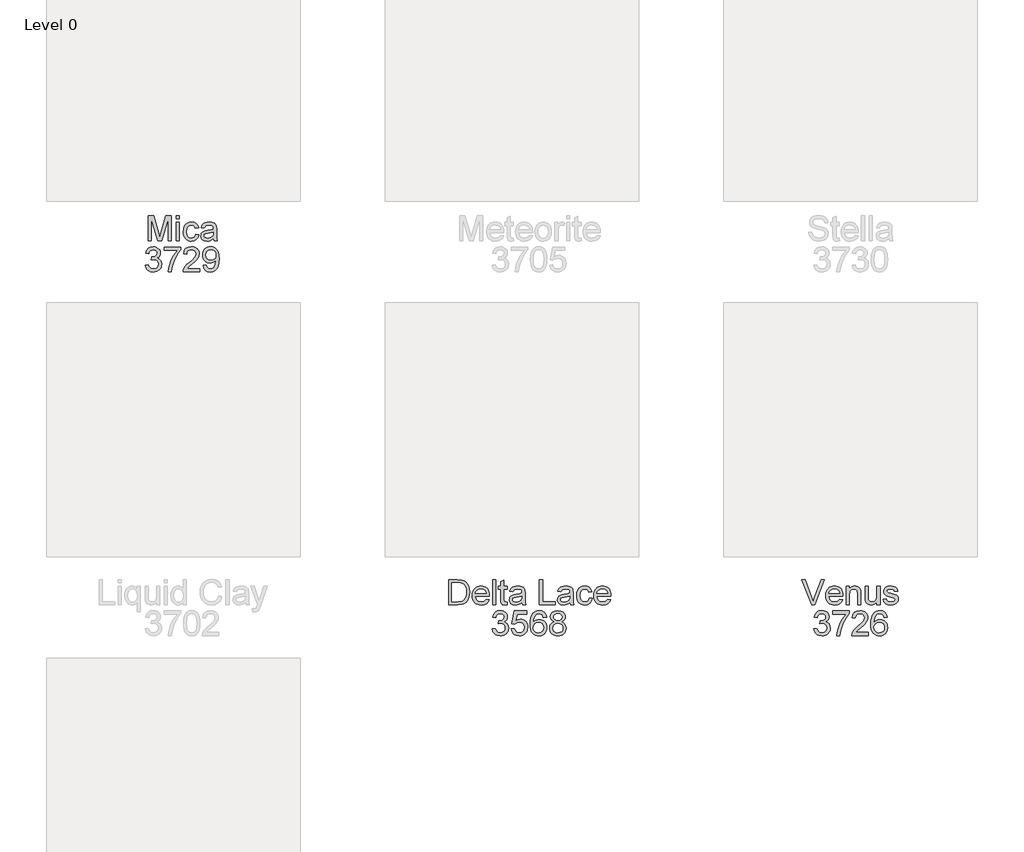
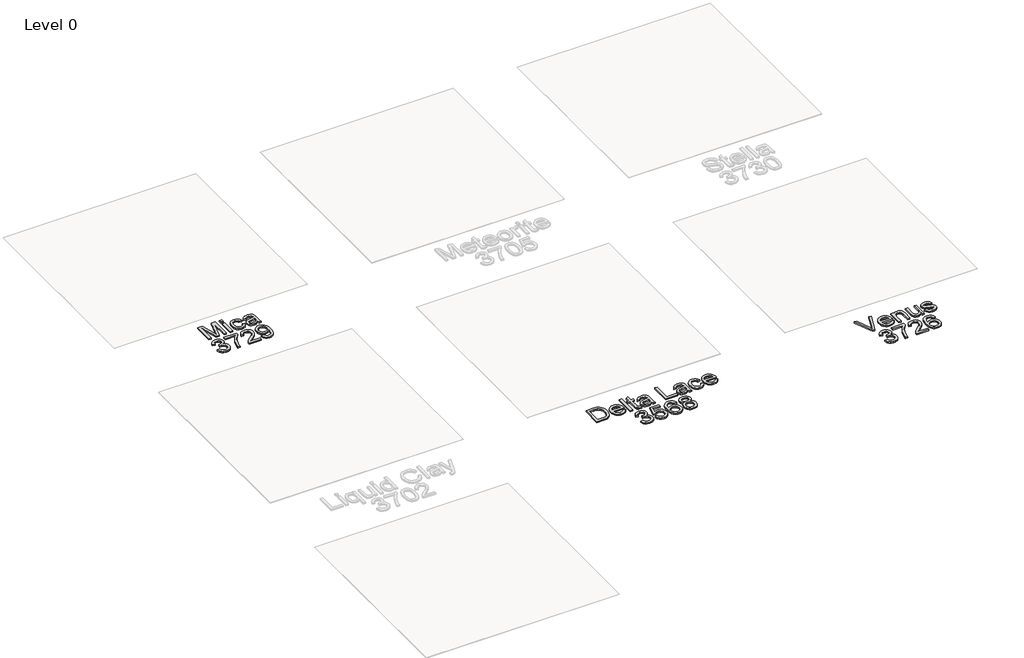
# One storey, part 7 of 14: 3 proxies.
"""IFC4 building model written with IfcOpenShell, lengths in millimetres."""

from ifc_helpers import new_model, si_unit, origin, origin_with_axes, place, context, project, spatial, polyline, outline, extrude, element, save

model = new_model("IFC4")

# Units and contexts
model_context = context("Model", 3, world=origin())
ifc_project = project(units=[si_unit("LENGTHUNIT", "METRE", prefix="MILLI")], contexts=[model_context])

# Site, building, storey
site = spatial("IfcSite", under=ifc_project)
building = spatial("IfcBuilding", under=site)
storey = spatial("IfcBuildingStorey", under=building, Name="Level 0", Elevation=0.0)

# Proxies
placement = place(None, origin())
element("IfcBuildingElementProxy", 1, Name="300mm Arial", ObjectType="300mm Arial", at=placement, inside=storey, context=model_context, shape_type="SweptSolid", body=[
    extrude(outline(polyline([(-251.5752648, -15037.1730179), (-251.5752648, -14741.7884025), (-188.041611, -14741.7884025), (-127.6089187, -14949.9855179), (-115.4214187, -14993.4710948), (-102.2243033, -14946.3797486), (-42.8012264, -14741.7884025), (20.7324275, -14741.7884025), (20.7324275, -15037.1730179), (-16.1906494, -15037.1730179), (-16.1906494, -14778.7114794), (-90.3973802, -15037.1730179), (-140.4454571, -15037.1730179), (-214.6521879, -14778.7114794), (-214.6521879, -15037.1730179), (-251.5752648, -15037.1730179)])), origin_with_axes(), (0.0, 0.0, 1.0), 20.0),
    extrude(outline(polyline([(80.7324275, -14778.7114794), (80.7324275, -14741.7884025), (117.6555044, -14741.7884025), (117.6555044, -14778.7114794), (80.7324275, -14778.7114794)])), origin_with_axes(), (0.0, 0.0, 1.0), 20.0),
    extrude(outline(polyline([(80.7324275, -15037.1730179), (80.7324275, -14820.2499409), (117.6555044, -14820.2499409), (117.6555044, -15037.1730179), (80.7324275, -15037.1730179)])), origin_with_axes(), (0.0, 0.0, 1.0), 20.0),
    extrude(outline(polyline([(311.5016583, -14958.7114794), (348.4247352, -14963.326864), (338.130264, -14996.1664073), (318.7853121, -15020.983114), (292.2107929, -15036.5870804), (260.2276198, -15041.7884025), (239.5192364, -15039.9742498), (220.9517785, -15034.5317919), (204.525246, -15025.4610287), (190.239639, -15012.7619602), (178.6763878, -14996.6734686), (170.4169227, -14977.4344361), (165.4612436, -14955.0448628), (163.8093506, -14929.5047486), (166.630865, -14896.6471765), (175.0954083, -14868.170614), (189.3381967, -14845.1748207), (209.4944467, -14828.7595563), (233.6080285, -14818.9158063), (259.7228121, -14815.6345563), (290.9217304, -14820.1417679), (315.864639, -14833.6634025), (333.7582688, -14855.4783063), (343.8093506, -14884.8653255), (306.8862736, -14889.4807102), (300.1885573, -14873.3719361), (289.7588698, -14861.8244602), (276.1741342, -14854.87434), (260.0112736, -14852.5576332), (236.1500958, -14857.1189313), (217.2107929, -14870.8028255), (204.8520188, -14894.3484986), (200.7324275, -14928.4951332), (204.7618746, -14963.1015034), (216.850216, -14986.7283063), (235.4469708, -15000.3310707), (259.0016583, -15004.8653255), (278.1212496, -15002.0347967), (293.7973313, -14993.5432102), (305.2005765, -14979.1742198), (311.5016583, -14958.7114794)])), origin_with_axes(), (0.0, 0.0, 1.0), 20.0),
    extrude(outline(polyline([(519.193966, -15009.4807102), (501.55274, -15024.6069121), (483.3886775, -15034.5047486), (464.287115, -15039.967489), (443.833389, -15041.7884025), (412.9770188, -15037.4073929), (390.2156006, -15024.264364), (376.1801438, -15004.3064313), (371.5016583, -14979.4807102), (373.2684852, -14964.1742198), (378.568966, -14950.2739794), (386.7450477, -14938.3749409), (397.1386775, -14929.0720563), (422.9920429, -14916.9566717), (454.9391583, -14911.4037871), (492.6915621, -14905.5624409), (518.9776198, -14898.7114794), (519.193966, -14890.4903255), (516.6518986, -14874.0119602), (509.0256967, -14863.2307102), (491.9704083, -14855.2259025), (468.208389, -14852.5576332), (446.2131967, -14854.3334746), (430.8526198, -14859.6609986), (420.3778602, -14869.513763), (413.0401198, -14884.8653255), (376.1170429, -14880.2499409), (382.5262977, -14860.0576332), (392.0906006, -14844.1922486), (405.7023794, -14832.0588352), (424.2540621, -14823.0624409), (446.943365, -14817.4915275), (472.9680044, -14815.6345563), (497.9289419, -14817.2751813), (517.7156006, -14822.1970563), (532.6344708, -14829.5978977), (542.9920429, -14838.6754217), (549.8610333, -14849.8983784), (554.3141583, -14863.7355179), (556.1170429, -14896.0432102), (556.1170429, -14941.9807102), (557.9920429, -15006.1273448), (565.3478121, -15037.1730179), (528.4247352, -15037.1730179), (519.193966, -15009.4807102)]), holes=[polyline([(519.193966, -14935.6345563), (459.6266583, -14946.9566717), (427.8598313, -14952.9422486), (413.4728121, -14962.6778255), (408.4247352, -14976.8845563), (411.1741342, -14987.8641236), (419.4223313, -14996.8605179), (432.9890381, -15002.8641236), (451.693966, -15004.8653255), (471.5256967, -15002.6567919), (489.0497352, -14996.0311909), (503.256466, -14986.2685707), (513.1362736, -14974.6489794), (517.5172833, -14962.6778255), (518.9776198, -14946.0912871), (519.193966, -14935.6345563)])]), origin_with_axes(), (0.0, 0.0, 1.0), 20.0),
    extrude(outline(polyline([(-286.1906494, -15323.326864), (-249.2675725, -15318.7114794), (-241.0013465, -15341.9146044), (-228.8949764, -15357.5816717), (-212.35351, -15366.5059505), (-190.7819956, -15369.4807102), (-165.4694956, -15365.3881621), (-145.9262264, -15353.1105179), (-133.432236, -15334.7932102), (-129.2675725, -15312.5816717), (-133.3961783, -15291.4969361), (-145.7819956, -15274.3965755), (-164.5319956, -15263.0654457), (-187.7531494, -15259.2884025), (-213.6425725, -15263.326864), (-209.5319956, -15226.4037871), (-203.618534, -15226.8364794), (-181.4971398, -15224.186239), (-161.7194956, -15216.2355179), (-147.7651687, -15202.7859986), (-143.1137264, -15183.639364), (-146.4851206, -15167.6928496), (-156.5993033, -15154.7571525), (-172.0319956, -15146.1844361), (-191.3589187, -15143.326864), (-210.7218994, -15146.2114794), (-226.5512264, -15154.8653255), (-238.1077167, -15169.2884025), (-244.6521879, -15189.4807102), (-281.5752648, -15184.8653255), (-270.7038706, -15151.7102775), (-251.3589187, -15126.9566717), (-224.8925725, -15111.5420082), (-192.6569956, -15106.4037871), (-169.4448562, -15108.93684), (-148.1257456, -15116.5359986), (-130.150986, -15128.5251813), (-116.9718994, -15144.2283063), (-108.8859619, -15162.3202534), (-106.1906494, -15181.4759025), (-108.7507456, -15199.3244602), (-116.431034, -15215.514364), (-129.1233417, -15229.3064313), (-146.7194956, -15239.9614794), (-123.6065148, -15249.3004217), (-106.479111, -15265.201864), (-95.8781494, -15286.8004217), (-92.3444956, -15313.2307102), (-94.1113225, -15331.9626813), (-99.4118033, -15349.2162871), (-108.2459379, -15364.9915275), (-120.6137264, -15379.2884025), (-135.6813345, -15391.1513832), (-152.6149283, -15399.6249409), (-171.4145076, -15404.7090755), (-192.0800725, -15406.4037871), (-227.7771879, -15400.6165275), (-243.1377648, -15393.3824529), (-256.8396879, -15383.2547486), (-268.3285701, -15370.8283664), (-277.0500244, -15356.6982582), (-286.1906494, -15323.326864)])), origin_with_axes(), (0.0, 0.0, 1.0), 20.0),
    extrude(outline(polyline([(-60.0368033, -15147.9422486), (-60.0368033, -15111.0191717), (133.8093506, -15111.0191717), (133.8093506, -15140.8749409), (106.1801438, -15175.841888), (78.8213698, -15220.3100371), (54.6897592, -15270.2228977), (36.7420429, -15321.5239794), (27.943966, -15359.9073929), (23.0401198, -15401.7884025), (-13.8829571, -15401.7884025), (-9.8895677, -15363.7295082), (0.7925236, -15318.4951332), (17.8748554, -15270.5474169), (41.068966, -15224.3484986), (68.1482929, -15182.5846765), (96.8862736, -15147.9422486), (-60.0368033, -15147.9422486)])), origin_with_axes(), (0.0, 0.0, 1.0), 20.0),
    extrude(outline(polyline([(355.3478121, -15364.8653255), (355.3478121, -15401.7884025), (161.5016583, -15401.7884025), (165.4680044, -15376.3316717), (174.5725717, -15356.43684), (187.895889, -15337.1369602), (207.1687256, -15316.935638), (234.1218506, -15294.3364794), (273.9656006, -15258.9458544), (297.8718506, -15232.8220563), (309.8249756, -15211.6201332), (313.8093506, -15190.9951332), (310.0503361, -15172.5065515), (298.7732929, -15157.1369602), (281.4385573, -15146.779388), (259.506466, -15143.326864), (236.474615, -15146.6982582), (218.5809852, -15156.8124409), (207.0335092, -15172.8761429), (203.0401198, -15194.0960948), (166.1170429, -15189.4807102), (175.068365, -15153.7655659), (183.4450176, -15139.5182703), (194.4223313, -15127.6778255), (207.7479023, -15118.3704337), (223.1693265, -15111.7222967), (260.2997352, -15106.4037871), (280.0886474, -15107.8821525), (297.7005765, -15112.3172486), (313.1355224, -15119.7090755), (326.3934852, -15130.0576332), (337.0417724, -15142.5966957), (344.6476919, -15156.5600371), (349.2112436, -15171.9476573), (350.7324275, -15188.7595563), (349.0918025, -15206.4188111), (344.1699275, -15223.7715755), (335.4349515, -15241.4218159), (322.3550236, -15259.9734986), (301.5046631, -15282.1219361), (269.458389, -15310.5624409), (226.9824275, -15346.0792679), (210.3237736, -15364.8653255), (355.3478121, -15364.8653255)])), origin_with_axes(), (0.0, 0.0, 1.0), 20.0),
    extrude(outline(polyline([(396.8862736, -15327.9422486), (433.8093506, -15323.326864), (440.1194467, -15344.2853977), (450.395889, -15358.5552294), (464.3862736, -15366.74934), (481.8381967, -15369.4807102), (497.4962496, -15367.7228977), (511.7300236, -15362.4494602), (523.5569467, -15354.2373207), (531.9944467, -15343.6634025), (544.0737736, -15311.5720563), (549.4103121, -15268.7355179), (549.193966, -15261.5239794), (536.4024996, -15277.1369602), (519.662716, -15289.5047486), (500.1825477, -15297.5636429), (479.1699275, -15300.2499409), (461.6301138, -15298.6093159), (445.5010573, -15293.6874409), (430.782758, -15285.4843159), (417.475216, -15273.9999409), (406.4483229, -15259.8337751), (398.5719708, -15243.5852775), (393.8461595, -15225.2544481), (392.270889, -15204.8412871), (393.9227821, -15183.7475371), (398.8784611, -15164.8172486), (407.1379263, -15148.0504217), (418.7011775, -15133.4470563), (432.7524095, -15121.615626), (448.4758169, -15113.1646044), (465.8713998, -15108.0939914), (484.9391583, -15106.4037871), (512.4782208, -15110.2619602), (537.5473313, -15121.8364794), (558.5148794, -15140.5504217), (573.7492544, -15165.826864), (583.0250958, -15200.7667679), (586.1170429, -15248.4710948), (583.0341102, -15299.0510227), (573.7853121, -15338.1465755), (558.4517785, -15367.5245804), (537.114639, -15388.951864), (510.693365, -15402.0408063), (480.1074275, -15406.4037871), (448.5389179, -15401.2565515), (423.3526198, -15385.8148448), (405.7384371, -15361.0522246), (396.8862736, -15327.9422486)]), holes=[polyline([(549.193966, -15203.9759025), (545.209591, -15178.951864), (533.256466, -15159.6970563), (514.7047833, -15147.4194121), (490.9247352, -15143.326864), (466.2612736, -15147.7349169), (446.5016583, -15160.9590755), (433.520889, -15181.1964554), (429.193966, -15206.6441717), (433.286514, -15229.4596765), (445.5641583, -15247.5696525), (464.8369948, -15259.3875611), (489.9151198, -15263.326864), (513.505865, -15259.3875611), (532.4992544, -15247.5696525), (545.0202881, -15228.7926092), (549.193966, -15203.9759025)])]), origin_with_axes(), (0.0, 0.0, 1.0), 20.0),
])
element("IfcBuildingElementProxy", 2, Name="300mm Arial", ObjectType="300mm Arial", at=placement, inside=storey, context=model_context, shape_type="SweptSolid", body=[
    extrude(outline(polyline([(3301.5016583, -19337.1730179), (3301.5016583, -19041.7884025), (3403.4006967, -19041.7884025), (3456.1170429, -19046.0432102), (3479.662716, -19054.2463352), (3499.5305044, -19067.1730179), (3519.9571871, -19089.6730179), (3534.506466, -19117.6537871), (3543.2143986, -19150.5744602), (3546.1170429, -19187.8941717), (3544.1518986, -19219.5978977), (3538.256466, -19247.4975371), (3529.2781006, -19271.2505419), (3518.0641583, -19290.514364), (3505.1555044, -19305.7216957), (3491.0930044, -19317.3052294), (3474.9481727, -19325.8959746), (3455.7925236, -19332.1249409), (3408.3045429, -19337.1730179), (3301.5016583, -19337.1730179)]), holes=[polyline([(3338.4247352, -19300.2499409), (3403.7612736, -19300.2499409), (3430.786514, -19298.9158063), (3451.2853121, -19294.9134025), (3466.7540621, -19288.4771044), (3478.6891583, -19279.8412871), (3491.5166823, -19263.858715), (3501.1531006, -19243.170614), (3507.1837496, -19217.68684), (3509.193966, -19187.3172486), (3505.2546631, -19147.076864), (3493.4367544, -19117.3653255), (3475.9758169, -19096.9566717), (3455.1074275, -19084.6249409), (3433.8694467, -19080.1898448), (3402.7516583, -19078.7114794), (3338.4247352, -19078.7114794), (3338.4247352, -19300.2499409)])]), origin_with_axes(), (0.0, 0.0, 1.0), 20.0),
    extrude(outline(polyline([(3744.145889, -19272.5576332), (3780.3478121, -19277.1730179), (3767.3039419, -19304.4506621), (3746.489639, -19324.8412871), (3718.3736535, -19337.5516236), (3683.4247352, -19341.7884025), (3660.5145789, -19339.9607282), (3640.1014179, -19334.4777054), (3622.185252, -19325.339334), (3606.7660813, -19312.545614), (3594.3667424, -19296.4526152), (3585.5100717, -19277.4164073), (3580.1960693, -19255.4369902), (3578.4247352, -19230.514364), (3580.2140982, -19204.7466356), (3585.5821871, -19182.0347967), (3594.529002, -19162.3788472), (3607.0545429, -19145.7787871), (3622.4331486, -19132.5906861), (3639.9391583, -19123.170614), (3659.5725717, -19117.5185707), (3681.333389, -19115.6345563), (3702.3933349, -19117.5140635), (3721.4385573, -19123.1525852), (3738.4690561, -19132.5501212), (3753.4848313, -19145.7066717), (3765.7421931, -19162.2706741), (3774.4974515, -19181.8905659), (3779.7506066, -19204.5663472), (3781.5016583, -19230.2980179), (3781.2853121, -19240.2499409), (3615.3478121, -19240.2499409), (3621.7390381, -19267.8881621), (3636.5857929, -19288.2066717), (3658.0130765, -19300.7006621), (3684.145889, -19304.8653255), (3703.7973313, -19302.936239), (3720.3478121, -19297.1489794), (3733.7973313, -19287.1429698), (3744.145889, -19272.5576332)]), holes=[polyline([(3615.3478121, -19203.326864), (3744.5785813, -19203.326864), (3739.584591, -19183.8196525), (3729.7949275, -19169.8653255), (3708.2684852, -19156.8845563), (3681.1891583, -19152.5576332), (3656.3003361, -19156.0101573), (3635.7204083, -19166.3677294), (3621.4145188, -19182.5125611), (3615.3478121, -19203.326864)])]), origin_with_axes(), (0.0, 0.0, 1.0), 20.0),
    extrude(outline(polyline([(3818.4247352, -19337.1730179), (3818.4247352, -19041.7884025), (3855.3478121, -19041.7884025), (3855.3478121, -19337.1730179), (3818.4247352, -19337.1730179)])), origin_with_axes(), (0.0, 0.0, 1.0), 20.0),
    extrude(outline(polyline([(3989.193966, -19306.3797486), (3993.8093506, -19338.2547486), (3966.1891583, -19341.7884025), (3948.4668025, -19340.2559505), (3935.2516583, -19335.6585948), (3925.912716, -19328.5732582), (3919.818966, -19319.576864), (3916.4656006, -19304.1261429), (3915.3478121, -19277.6778255), (3915.3478121, -19157.1730179), (3887.6555044, -19157.1730179), (3887.6555044, -19120.2499409), (3915.3478121, -19120.2499409), (3915.3478121, -19067.5335948), (3952.270889, -19045.826864), (3952.270889, -19120.2499409), (3989.193966, -19120.2499409), (3989.193966, -19157.1730179), (3952.270889, -19157.1730179), (3952.270889, -19276.5960948), (3954.2180044, -19295.6345563), (3960.5281006, -19302.3773448), (3973.1122352, -19304.8653255), (3989.193966, -19306.3797486)])), origin_with_axes(), (0.0, 0.0, 1.0), 20.0),
    extrude(outline(polyline([(4164.5785813, -19309.4807102), (4146.9373554, -19324.6069121), (4128.7732929, -19334.5047486), (4109.6717304, -19339.967489), (4089.2180044, -19341.7884025), (4058.3616342, -19337.4073929), (4035.600216, -19324.264364), (4021.5647592, -19304.3064313), (4016.8862736, -19279.4807102), (4018.6531006, -19264.1742198), (4023.9535813, -19250.2739794), (4032.1296631, -19238.3749409), (4042.5232929, -19229.0720563), (4068.3766583, -19216.9566717), (4100.3237736, -19211.4037871), (4138.0761775, -19205.5624409), (4164.3622352, -19198.7114794), (4164.5785813, -19190.4903255), (4162.036514, -19174.0119602), (4154.4103121, -19163.2307102), (4137.3550236, -19155.2259025), (4113.5930044, -19152.5576332), (4091.5978121, -19154.3334746), (4076.2372352, -19159.6609986), (4065.7624756, -19169.513763), (4058.4247352, -19184.8653255), (4021.5016583, -19180.2499409), (4027.9109131, -19160.0576332), (4037.475216, -19144.1922486), (4051.0869948, -19132.0588352), (4069.6386775, -19123.0624409), (4092.3279804, -19117.4915275), (4118.3526198, -19115.6345563), (4143.3135573, -19117.2751813), (4163.100216, -19122.1970563), (4178.0190861, -19129.5978977), (4188.3766583, -19138.6754217), (4195.2456486, -19149.8983784), (4199.6987736, -19163.7355179), (4201.5016583, -19196.0432102), (4201.5016583, -19241.9807102), (4203.3766583, -19306.1273448), (4210.7324275, -19337.1730179), (4173.8093506, -19337.1730179), (4164.5785813, -19309.4807102)]), holes=[polyline([(4164.5785813, -19235.6345563), (4105.0112736, -19246.9566717), (4073.2444467, -19252.9422486), (4058.8574275, -19262.6778255), (4053.8093506, -19276.8845563), (4056.5587496, -19287.8641236), (4064.8069467, -19296.8605179), (4078.3736535, -19302.8641236), (4097.0785813, -19304.8653255), (4116.9103121, -19302.6567919), (4134.4343506, -19296.0311909), (4148.6410813, -19286.2685707), (4158.520889, -19274.6489794), (4162.9018986, -19262.6778255), (4164.3622352, -19246.0912871), (4164.5785813, -19235.6345563)])]), origin_with_axes(), (0.0, 0.0, 1.0), 20.0),
    extrude(outline(polyline([(4372.270889, -19337.1730179), (4372.270889, -19041.7884025), (4409.193966, -19041.7884025), (4409.193966, -19300.2499409), (4556.8862736, -19300.2499409), (4556.8862736, -19337.1730179), (4372.270889, -19337.1730179)])), origin_with_axes(), (0.0, 0.0, 1.0), 20.0),
    extrude(outline(polyline([(4732.270889, -19309.4807102), (4714.6296631, -19324.6069121), (4696.4656006, -19334.5047486), (4677.3640381, -19339.967489), (4656.9103121, -19341.7884025), (4626.0539419, -19337.4073929), (4603.2925236, -19324.264364), (4589.2570669, -19304.3064313), (4584.5785813, -19279.4807102), (4586.3454083, -19264.1742198), (4591.645889, -19250.2739794), (4599.8219708, -19238.3749409), (4610.2156006, -19229.0720563), (4636.068966, -19216.9566717), (4668.0160813, -19211.4037871), (4705.7684852, -19205.5624409), (4732.0545429, -19198.7114794), (4732.270889, -19190.4903255), (4729.7288217, -19174.0119602), (4722.1026198, -19163.2307102), (4705.0473313, -19155.2259025), (4681.2853121, -19152.5576332), (4659.2901198, -19154.3334746), (4643.9295429, -19159.6609986), (4633.4547833, -19169.513763), (4626.1170429, -19184.8653255), (4589.193966, -19180.2499409), (4595.6032208, -19160.0576332), (4605.1675236, -19144.1922486), (4618.7793025, -19132.0588352), (4637.3309852, -19123.0624409), (4660.0202881, -19117.4915275), (4686.0449275, -19115.6345563), (4711.005865, -19117.2751813), (4730.7925236, -19122.1970563), (4745.7113938, -19129.5978977), (4756.068966, -19138.6754217), (4762.9379563, -19149.8983784), (4767.3910813, -19163.7355179), (4769.193966, -19196.0432102), (4769.193966, -19241.9807102), (4771.068966, -19306.1273448), (4778.4247352, -19337.1730179), (4741.5016583, -19337.1730179), (4732.270889, -19309.4807102)]), holes=[polyline([(4732.270889, -19235.6345563), (4672.7035813, -19246.9566717), (4640.9367544, -19252.9422486), (4626.5497352, -19262.6778255), (4621.5016583, -19276.8845563), (4624.2510573, -19287.8641236), (4632.4992544, -19296.8605179), (4646.0659611, -19302.8641236), (4664.770889, -19304.8653255), (4684.6026198, -19302.6567919), (4702.1266583, -19296.0311909), (4716.333389, -19286.2685707), (4726.2131967, -19274.6489794), (4730.5942063, -19262.6778255), (4732.0545429, -19246.0912871), (4732.270889, -19235.6345563)])]), origin_with_axes(), (0.0, 0.0, 1.0), 20.0),
    extrude(outline(polyline([(4958.4247352, -19258.7114794), (4995.3478121, -19263.326864), (4985.053341, -19296.1664073), (4965.708389, -19320.983114), (4939.1338698, -19336.5870804), (4907.1506967, -19341.7884025), (4886.4423133, -19339.9742498), (4867.8748554, -19334.5317919), (4851.4483229, -19325.4610287), (4837.162716, -19312.7619602), (4825.5994648, -19296.6734686), (4817.3399996, -19277.4344361), (4812.3843205, -19255.0448628), (4810.7324275, -19229.5047486), (4813.5539419, -19196.6471765), (4822.0184852, -19168.170614), (4836.2612736, -19145.1748207), (4856.4175236, -19128.7595563), (4880.5311054, -19118.9158063), (4906.645889, -19115.6345563), (4937.8448073, -19120.1417679), (4962.787716, -19133.6634025), (4980.6813458, -19155.4783063), (4990.7324275, -19184.8653255), (4953.8093506, -19189.4807102), (4947.1116342, -19173.3719361), (4936.6819467, -19161.8244602), (4923.0972111, -19154.87434), (4906.9343506, -19152.5576332), (4883.0731727, -19157.1189313), (4864.1338698, -19170.8028255), (4851.7750958, -19194.3484986), (4847.6555044, -19228.4951332), (4851.6849515, -19263.1015034), (4863.7732929, -19286.7283063), (4882.3700477, -19300.3310707), (4905.9247352, -19304.8653255), (4925.0443265, -19302.0347967), (4940.7204083, -19293.5432102), (4952.1236535, -19279.1742198), (4958.4247352, -19258.7114794)])), origin_with_axes(), (0.0, 0.0, 1.0), 20.0),
    extrude(outline(polyline([(5179.5305044, -19272.5576332), (5215.7324275, -19277.1730179), (5202.6885573, -19304.4506621), (5181.8742544, -19324.8412871), (5153.7582688, -19337.5516236), (5118.8093506, -19341.7884025), (5095.8991943, -19339.9607282), (5075.4860333, -19334.4777054), (5057.5698674, -19325.339334), (5042.1506967, -19312.545614), (5029.7513578, -19296.4526152), (5020.8946871, -19277.4164073), (5015.5806847, -19255.4369902), (5013.8093506, -19230.514364), (5015.5987136, -19204.7466356), (5020.9668025, -19182.0347967), (5029.9136174, -19162.3788472), (5042.4391583, -19145.7787871), (5057.817764, -19132.5906861), (5075.3237736, -19123.170614), (5094.9571871, -19117.5185707), (5116.7180044, -19115.6345563), (5137.7779503, -19117.5140635), (5156.8231727, -19123.1525852), (5173.8536715, -19132.5501212), (5188.8694467, -19145.7066717), (5201.1268085, -19162.2706741), (5209.8820669, -19181.8905659), (5215.135222, -19204.5663472), (5216.8862736, -19230.2980179), (5216.6699275, -19240.2499409), (5050.7324275, -19240.2499409), (5057.1236535, -19267.8881621), (5071.9704083, -19288.2066717), (5093.3976919, -19300.7006621), (5119.5305044, -19304.8653255), (5139.1819467, -19302.936239), (5155.7324275, -19297.1489794), (5169.1819467, -19287.1429698), (5179.5305044, -19272.5576332)]), holes=[polyline([(5050.7324275, -19203.326864), (5179.9631967, -19203.326864), (5174.9692063, -19183.8196525), (5165.1795429, -19169.8653255), (5143.6531006, -19156.8845563), (5116.5737736, -19152.5576332), (5091.6849515, -19156.0101573), (5071.1050236, -19166.3677294), (5056.7991342, -19182.5125611), (5050.7324275, -19203.326864)])]), origin_with_axes(), (0.0, 0.0, 1.0), 20.0),
    extrude(outline(polyline([(3813.8093506, -19623.326864), (3850.7324275, -19618.7114794), (3858.9986535, -19641.9146044), (3871.1050236, -19657.5816717), (3887.64649, -19666.5059505), (3909.2180044, -19669.4807102), (3934.5305044, -19665.3881621), (3954.0737736, -19653.1105179), (3966.567764, -19634.7932102), (3970.7324275, -19612.5816717), (3966.6038217, -19591.4969361), (3954.2180044, -19574.3965755), (3935.4680044, -19563.0654457), (3912.2468506, -19559.2884025), (3886.3574275, -19563.326864), (3890.4680044, -19526.4037871), (3896.381466, -19526.8364794), (3918.5028602, -19524.186239), (3938.2805044, -19516.2355179), (3952.2348313, -19502.7859986), (3956.8862736, -19483.639364), (3953.5148794, -19467.6928496), (3943.4006967, -19454.7571525), (3927.9680044, -19446.1844361), (3908.6410813, -19443.326864), (3889.2781006, -19446.2114794), (3873.4487736, -19454.8653255), (3861.8922833, -19469.2884025), (3855.3478121, -19489.4807102), (3818.4247352, -19484.8653255), (3829.2961294, -19451.7102775), (3848.6410813, -19426.9566717), (3875.1074275, -19411.5420082), (3907.3430044, -19406.4037871), (3930.5551438, -19408.93684), (3951.8742544, -19416.5359986), (3969.849014, -19428.5251813), (3983.0281006, -19444.2283063), (3991.1140381, -19462.3202534), (3993.8093506, -19481.4759025), (3991.2492544, -19499.3244602), (3983.568966, -19515.514364), (3970.8766583, -19529.3064313), (3953.2805044, -19539.9614794), (3976.3934852, -19549.3004217), (3993.520889, -19565.201864), (4004.1218506, -19586.8004217), (4007.6555044, -19613.2307102), (4005.8886775, -19631.9626813), (4000.5881967, -19649.2162871), (3991.7540621, -19664.9915275), (3979.3862736, -19679.2884025), (3964.3186655, -19691.1513832), (3947.3850717, -19699.6249409), (3928.5854924, -19704.7090755), (3907.9199275, -19706.4037871), (3872.2228121, -19700.6165275), (3856.8622352, -19693.3824529), (3843.1603121, -19683.2547486), (3831.6714299, -19670.8283664), (3822.9499756, -19656.6982582), (3813.8093506, -19623.326864)])), origin_with_axes(), (0.0, 0.0, 1.0), 20.0),
    extrude(outline(polyline([(4039.9631967, -19623.326864), (4076.8862736, -19618.7114794), (4083.6651198, -19640.8779457), (4095.4920429, -19656.7523448), (4112.3129563, -19666.2986188), (4134.0737736, -19669.4807102), (4160.5401198, -19665.0546284), (4180.3718506, -19651.7763832), (4192.7576679, -19631.1784265), (4196.8862736, -19604.7932102), (4193.0190861, -19579.9494602), (4181.4175236, -19560.9470563), (4161.9914419, -19548.8857582), (4134.6506967, -19544.8653255), (4116.7390381, -19546.4698929), (4102.2348313, -19551.2835948), (4081.5016583, -19567.9422486), (4044.5785813, -19563.326864), (4076.8862736, -19411.0191717), (4219.9631967, -19411.0191717), (4219.9631967, -19447.9422486), (4106.7420429, -19447.9422486), (4090.9487736, -19529.2884025), (4117.3249756, -19513.2787871), (4144.9631967, -19507.9422486), (4162.9447172, -19509.5963953), (4179.4613938, -19514.5588352), (4194.5132268, -19522.8295683), (4208.100216, -19534.4085948), (4219.3479623, -19548.5882823), (4227.3820669, -19564.6609986), (4232.2025297, -19582.6267438), (4233.8093506, -19602.4855179), (4228.022091, -19639.4085948), (4220.7880164, -19655.8689313), (4210.6603121, -19670.9951332), (4195.317764, -19686.4864193), (4177.4151198, -19697.5516236), (4156.9523794, -19704.1907462), (4133.9295429, -19706.4037871), (4097.6645188, -19700.7156861), (4082.2971811, -19693.6055599), (4068.7732929, -19683.6513832), (4057.5210393, -19671.3489493), (4048.9686054, -19657.1940515), (4039.9631967, -19623.326864)])), origin_with_axes(), (0.0, 0.0, 1.0), 20.0),
    extrude(outline(polyline([(4455.3478121, -19484.8653255), (4418.4247352, -19489.4807102), (4412.475216, -19471.1814313), (4404.4343506, -19458.6874409), (4387.6855525, -19447.1670082), (4367.4391583, -19443.326864), (4350.2756967, -19445.5624409), (4334.1218506, -19452.2691717), (4320.2486535, -19466.3947727), (4308.9175236, -19485.8388832), (4301.2642785, -19513.341888), (4298.4247352, -19551.6441717), (4313.2354323, -19534.3635227), (4330.9848313, -19522.1850371), (4350.6813458, -19514.9644842), (4371.333389, -19512.5576332), (4389.0737736, -19514.2027654), (4405.443966, -19519.1381621), (4420.443966, -19527.3638231), (4434.0737736, -19538.8797486), (4445.4003962, -19553.0008424), (4453.490841, -19569.0420082), (4458.3451078, -19587.0032462), (4459.9631967, -19606.8845563), (4456.9163217, -19633.3238592), (4447.7756967, -19657.8340755), (4433.2985333, -19678.6213352), (4414.2420429, -19693.8917679), (4391.4716102, -19703.2757823), (4365.8526198, -19706.4037871), (4343.8416523, -19704.3304698), (4323.9625958, -19698.1105179), (4306.2154503, -19687.7439313), (4290.600216, -19673.2307102), (4277.869597, -19653.9578736), (4268.7762977, -19629.3124409), (4263.3203181, -19599.2944121), (4261.5016583, -19563.9037871), (4263.520889, -19524.2268039), (4269.5785813, -19490.3641236), (4279.6747352, -19462.3157462), (4293.8093506, -19440.0816717), (4309.1293626, -19425.3475972), (4326.8922833, -19414.8232582), (4347.0981126, -19408.5086549), (4369.7468506, -19406.4037871), (4402.1446871, -19411.6141236), (4428.0881967, -19427.2451332), (4446.2612736, -19452.0708544), (4455.3478121, -19484.8653255)]), holes=[polyline([(4298.4247352, -19606.3076332), (4300.5611535, -19622.6688111), (4306.9704083, -19638.2908063), (4316.9223313, -19651.7222967), (4329.6867544, -19661.5119602), (4345.0924035, -19667.4885227), (4362.9680044, -19669.4807102), (4387.33399, -19665.3521044), (4406.489639, -19652.9662871), (4418.9024996, -19633.4951332), (4423.0401198, -19608.1105179), (4418.9565861, -19583.7445323), (4406.7059852, -19565.1658063), (4387.2258169, -19553.4019842), (4361.4535813, -19549.4807102), (4337.1236535, -19553.4019842), (4316.7781006, -19565.1658063), (4303.0130765, -19583.2938111), (4298.4247352, -19606.3076332)])]), origin_with_axes(), (0.0, 0.0, 1.0), 20.0),
    extrude(outline(polyline([(4546.068966, -19539.0960948), (4526.3003361, -19529.3605179), (4512.427139, -19516.1634025), (4504.2330285, -19499.7751813), (4501.5016583, -19480.4662871), (4507.4511775, -19451.6021044), (4525.2997352, -19427.7499409), (4538.185853, -19418.4109986), (4553.0461294, -19411.7403255), (4588.6891583, -19406.4037871), (4624.5485333, -19411.8665275), (4639.5710693, -19418.6949529), (4652.6555044, -19428.2547486), (4670.8285813, -19452.4855179), (4675.3718506, -19466.3857582), (4676.8862736, -19481.4759025), (4674.1909611, -19500.1628015), (4666.1050236, -19516.2715755), (4652.5383169, -19529.3875611), (4633.4006967, -19539.0960948), (4656.1260573, -19550.8058304), (4672.6675236, -19568.0504217), (4682.7546631, -19590.0005419), (4686.1170429, -19615.826864), (4684.4493746, -19634.2433304), (4679.4463698, -19651.1273448), (4671.1080285, -19666.4789073), (4659.4343506, -19680.2980179), (4645.0383169, -19691.7192919), (4628.5329083, -19699.8773448), (4609.9181246, -19704.7721765), (4589.193966, -19706.4037871), (4568.4698073, -19704.7654157), (4549.8550236, -19699.8503015), (4533.349615, -19691.6584445), (4518.9535813, -19680.1898448), (4507.2799035, -19666.2738292), (4498.9415621, -19650.7397246), (4493.9385573, -19633.5875311), (4492.270889, -19614.8172486), (4495.7684852, -19587.9903255), (4506.2612736, -19565.9230179), (4523.208389, -19549.3725371), (4546.068966, -19539.0960948)]), holes=[polyline([(4538.4247352, -19481.5480179), (4541.6969708, -19497.6658063), (4551.5136775, -19510.5384025), (4567.5863938, -19518.9759025), (4589.6266583, -19521.7884025), (4611.1531006, -19518.9939313), (4626.9824275, -19510.6105179), (4636.7180044, -19498.170614), (4639.9631967, -19483.2066717), (4636.6098313, -19467.6748207), (4626.5497352, -19454.8292679), (4610.5040621, -19446.202465), (4589.193966, -19443.326864), (4567.7486535, -19446.139364), (4551.7300236, -19454.576864), (4541.7510573, -19466.9446525), (4538.4247352, -19481.5480179)]), polyline([(4529.193966, -19613.5191717), (4535.3598313, -19641.3196525), (4543.89649, -19653.2457342), (4557.1747352, -19662.1249409), (4573.0761775, -19667.6417679), (4589.4824275, -19669.4807102), (4614.614639, -19665.6135227), (4633.4728121, -19654.0119602), (4645.2636775, -19636.4428496), (4649.193966, -19614.6730179), (4645.1374756, -19592.5335948), (4632.9680044, -19574.576864), (4613.677139, -19562.6778255), (4588.256466, -19558.7114794), (4563.4758169, -19562.623739), (4544.8069467, -19574.3605179), (4533.0972111, -19591.9747005), (4529.193966, -19613.5191717)])]), origin_with_axes(), (0.0, 0.0, 1.0), 20.0),
])
element("IfcBuildingElementProxy", 3, Name="300mm Arial", ObjectType="300mm Arial", at=placement, inside=storey, context=model_context, shape_type="SweptSolid", body=[
    extrude(outline(polyline([(7587.9920429, -19337.1730179), (7470.443966, -19041.7884025), (7509.9631967, -19041.7884025), (7588.6410813, -19254.6009025), (7604.5785813, -19302.5576332), (7620.2997352, -19254.6009025), (7699.193966, -19041.7884025), (7738.7131967, -19041.7884025), (7626.1410813, -19337.1730179), (7587.9920429, -19337.1730179)])), origin_with_axes(), (0.0, 0.0, 1.0), 20.0),
    extrude(outline(polyline([(7920.2997352, -19272.5576332), (7956.5016583, -19277.1730179), (7943.4577881, -19304.4506621), (7922.6434852, -19324.8412871), (7894.5274996, -19337.5516236), (7859.5785813, -19341.7884025), (7836.6684251, -19339.9607282), (7816.255264, -19334.4777054), (7798.3390982, -19325.339334), (7782.9199275, -19312.545614), (7770.5205886, -19296.4526152), (7761.6639179, -19277.4164073), (7756.3499155, -19255.4369902), (7754.5785813, -19230.514364), (7756.3679443, -19204.7466356), (7761.7360333, -19182.0347967), (7770.6828482, -19162.3788472), (7783.208389, -19145.7787871), (7798.5869948, -19132.5906861), (7816.0930044, -19123.170614), (7835.7264179, -19117.5185707), (7857.4872352, -19115.6345563), (7878.5471811, -19117.5140635), (7897.5924035, -19123.1525852), (7914.6229023, -19132.5501212), (7929.6386775, -19145.7066717), (7941.8960393, -19162.2706741), (7950.6512977, -19181.8905659), (7955.9044527, -19204.5663472), (7957.6555044, -19230.2980179), (7957.4391583, -19240.2499409), (7791.5016583, -19240.2499409), (7797.8928842, -19267.8881621), (7812.739639, -19288.2066717), (7834.1669227, -19300.7006621), (7860.2997352, -19304.8653255), (7879.9511775, -19302.936239), (7896.5016583, -19297.1489794), (7909.9511775, -19287.1429698), (7920.2997352, -19272.5576332)]), holes=[polyline([(7791.5016583, -19203.326864), (7920.7324275, -19203.326864), (7915.7384371, -19183.8196525), (7905.9487736, -19169.8653255), (7884.4223313, -19156.8845563), (7857.3430044, -19152.5576332), (7832.4541823, -19156.0101573), (7811.8742544, -19166.3677294), (7797.568365, -19182.5125611), (7791.5016583, -19203.326864)])]), origin_with_axes(), (0.0, 0.0, 1.0), 20.0),
    extrude(outline(polyline([(7994.5785813, -19337.1730179), (7994.5785813, -19120.2499409), (8031.5016583, -19120.2499409), (8031.5016583, -19150.5384025), (8044.3291823, -19135.2679698), (8059.7348313, -19124.3605179), (8077.7186054, -19117.8160467), (8098.2805044, -19115.6345563), (8116.4806246, -19117.3923688), (8133.1482929, -19122.6658063), (8147.0485333, -19130.7968159), (8156.9463698, -19141.1273448), (8168.0160813, -19168.2787871), (8169.9631967, -19203.9759025), (8169.9631967, -19337.1730179), (8133.0401198, -19337.1730179), (8133.0401198, -19208.951864), (8128.7853121, -19176.2835948), (8122.8988938, -19166.5570323), (8113.7492544, -19159.0119602), (8102.02149, -19154.171215), (8088.4006967, -19152.5576332), (8066.7750958, -19156.1814313), (8048.3406006, -19167.0528255), (8040.9735633, -19175.9275251), (8035.7113938, -19188.0564313), (8031.5016583, -19222.076864), (8031.5016583, -19337.1730179), (7994.5785813, -19337.1730179)])), origin_with_axes(), (0.0, 0.0, 1.0), 20.0),
    extrude(outline(polyline([(8359.193966, -19337.1730179), (8359.193966, -19299.889364), (8345.834591, -19318.2201933), (8330.2756967, -19331.3136429), (8312.5172833, -19339.1697126), (8292.5593506, -19341.7884025), (8274.5755765, -19339.9494602), (8257.8357929, -19334.4326332), (8243.7913217, -19326.139364), (8233.8934852, -19315.9710948), (8222.895889, -19288.7835948), (8220.7324275, -19254.4566717), (8220.7324275, -19120.2499409), (8257.6555044, -19120.2499409), (8257.6555044, -19237.076864), (8259.8910813, -19274.7210948), (8265.2726919, -19287.2781861), (8274.4944467, -19296.8244602), (8286.943365, -19302.8551092), (8302.006466, -19304.8653255), (8317.9349515, -19302.8100371), (8332.8357929, -19296.6441717), (8345.1224515, -19286.935638), (8353.208389, -19274.2523448), (8357.6975717, -19256.8815515), (8359.193966, -19233.1105179), (8359.193966, -19120.2499409), (8396.1170429, -19120.2499409), (8396.1170429, -19337.1730179), (8359.193966, -19337.1730179)])), origin_with_axes(), (0.0, 0.0, 1.0), 20.0),
    extrude(outline(polyline([(8433.0401198, -19272.5576332), (8469.9631967, -19267.9422486), (8475.786514, -19283.7355179), (8487.0545429, -19295.3460948), (8503.8393986, -19302.4855179), (8526.2131967, -19304.8653255), (8548.3165621, -19302.6838352), (8563.8574275, -19296.139364), (8573.052139, -19286.6561909), (8576.1170429, -19275.6585948), (8573.0341102, -19266.2475371), (8563.7853121, -19259.0720563), (8525.7805044, -19248.5432102), (8470.1795429, -19230.4783063), (8456.1080285, -19221.4007823), (8445.912716, -19209.3845563), (8439.7198073, -19195.1958544), (8437.6555044, -19179.6009025), (8439.3141583, -19165.295013), (8444.2901198, -19152.0888832), (8452.1326679, -19140.5053496), (8462.3910813, -19131.0672486), (8485.864639, -19120.1417679), (8517.631466, -19115.6345563), (8541.6639179, -19117.4464554), (8562.5593506, -19122.8821525), (8579.3622352, -19131.4097967), (8591.1170429, -19142.4975371), (8598.9055044, -19156.9656861), (8603.8093506, -19175.6345563), (8566.8862736, -19180.2499409), (8562.2258169, -19168.6303496), (8553.0040621, -19159.8773448), (8539.130865, -19154.3875611), (8520.5160813, -19152.5576332), (8499.3141583, -19154.3064313), (8485.1795429, -19159.5528255), (8477.2288217, -19167.1249409), (8474.5785813, -19175.8509025), (8478.9776198, -19186.5960948), (8492.7516583, -19194.7451332), (8524.5545429, -19202.6057102), (8578.7492544, -19219.9855179), (8593.0641583, -19228.2968159), (8603.9175236, -19239.6730179), (8610.7594708, -19254.1501813), (8613.0401198, -19271.764364), (8610.3628361, -19289.9734986), (8602.3309852, -19307.1009025), (8589.2510573, -19321.8034265), (8571.4295429, -19332.7379217), (8549.9031006, -19339.5257823), (8525.708389, -19341.7884025), (8488.4788217, -19337.4254217), (8461.3093506, -19324.3364794), (8443.1723313, -19302.6658063), (8433.0401198, -19272.5576332)])), origin_with_axes(), (0.0, 0.0, 1.0), 20.0),
    extrude(outline(polyline([(7613.8093506, -19623.326864), (7650.7324275, -19618.7114794), (7658.9986535, -19641.9146044), (7671.1050236, -19657.5816717), (7687.64649, -19666.5059505), (7709.2180044, -19669.4807102), (7734.5305044, -19665.3881621), (7754.0737736, -19653.1105179), (7766.567764, -19634.7932102), (7770.7324275, -19612.5816717), (7766.6038217, -19591.4969361), (7754.2180044, -19574.3965755), (7735.4680044, -19563.0654457), (7712.2468506, -19559.2884025), (7686.3574275, -19563.326864), (7690.4680044, -19526.4037871), (7696.381466, -19526.8364794), (7718.5028602, -19524.186239), (7738.2805044, -19516.2355179), (7752.2348313, -19502.7859986), (7756.8862736, -19483.639364), (7753.5148794, -19467.6928496), (7743.4006967, -19454.7571525), (7727.9680044, -19446.1844361), (7708.6410813, -19443.326864), (7689.2781006, -19446.2114794), (7673.4487736, -19454.8653255), (7661.8922833, -19469.2884025), (7655.3478121, -19489.4807102), (7618.4247352, -19484.8653255), (7629.2961294, -19451.7102775), (7648.6410813, -19426.9566717), (7675.1074275, -19411.5420082), (7707.3430044, -19406.4037871), (7730.5551438, -19408.93684), (7751.8742544, -19416.5359986), (7769.849014, -19428.5251813), (7783.0281006, -19444.2283063), (7791.1140381, -19462.3202534), (7793.8093506, -19481.4759025), (7791.2492544, -19499.3244602), (7783.568966, -19515.514364), (7770.8766583, -19529.3064313), (7753.2805044, -19539.9614794), (7776.3934852, -19549.3004217), (7793.520889, -19565.201864), (7804.1218506, -19586.8004217), (7807.6555044, -19613.2307102), (7805.8886775, -19631.9626813), (7800.5881967, -19649.2162871), (7791.7540621, -19664.9915275), (7779.3862736, -19679.2884025), (7764.3186655, -19691.1513832), (7747.3850717, -19699.6249409), (7728.5854924, -19704.7090755), (7707.9199275, -19706.4037871), (7672.2228121, -19700.6165275), (7656.8622352, -19693.3824529), (7643.1603121, -19683.2547486), (7631.6714299, -19670.8283664), (7622.9499756, -19656.6982582), (7613.8093506, -19623.326864)])), origin_with_axes(), (0.0, 0.0, 1.0), 20.0),
    extrude(outline(polyline([(7839.9631967, -19447.9422486), (7839.9631967, -19411.0191717), (8033.8093506, -19411.0191717), (8033.8093506, -19440.8749409), (8006.1801438, -19475.841888), (7978.8213698, -19520.3100371), (7954.6897592, -19570.2228977), (7936.7420429, -19621.5239794), (7927.943966, -19659.9073929), (7923.0401198, -19701.7884025), (7886.1170429, -19701.7884025), (7890.1104323, -19663.7295082), (7900.7925236, -19618.4951332), (7917.8748554, -19570.5474169), (7941.068966, -19524.3484986), (7968.1482929, -19482.5846765), (7996.8862736, -19447.9422486), (7839.9631967, -19447.9422486)])), origin_with_axes(), (0.0, 0.0, 1.0), 20.0),
    extrude(outline(polyline([(8255.3478121, -19664.8653255), (8255.3478121, -19701.7884025), (8061.5016583, -19701.7884025), (8065.4680044, -19676.3316717), (8074.5725717, -19656.43684), (8087.895889, -19637.1369602), (8107.1687256, -19616.935638), (8134.1218506, -19594.3364794), (8173.9656006, -19558.9458544), (8197.8718506, -19532.8220563), (8209.8249756, -19511.6201332), (8213.8093506, -19490.9951332), (8210.0503361, -19472.5065515), (8198.7732929, -19457.1369602), (8181.4385573, -19446.779388), (8159.506466, -19443.326864), (8136.474615, -19446.6982582), (8118.5809852, -19456.8124409), (8107.0335092, -19472.8761429), (8103.0401198, -19494.0960948), (8066.1170429, -19489.4807102), (8075.068365, -19453.7655659), (8083.4450176, -19439.5182703), (8094.4223313, -19427.6778255), (8107.7479023, -19418.3704337), (8123.1693265, -19411.7222967), (8160.2997352, -19406.4037871), (8180.0886474, -19407.8821525), (8197.7005765, -19412.3172486), (8213.1355224, -19419.7090755), (8226.3934852, -19430.0576332), (8237.0417724, -19442.5966957), (8244.6476919, -19456.5600371), (8249.2112436, -19471.9476573), (8250.7324275, -19488.7595563), (8249.0918025, -19506.4188111), (8244.1699275, -19523.7715755), (8235.4349515, -19541.4218159), (8222.3550236, -19559.9734986), (8201.5046631, -19582.1219361), (8169.458389, -19610.5624409), (8126.9824275, -19646.0792679), (8110.3237736, -19664.8653255), (8255.3478121, -19664.8653255)])), origin_with_axes(), (0.0, 0.0, 1.0), 20.0),
    extrude(outline(polyline([(8481.5016583, -19484.8653255), (8444.5785813, -19489.4807102), (8438.6290621, -19471.1814313), (8430.5881967, -19458.6874409), (8413.8393986, -19447.1670082), (8393.5930044, -19443.326864), (8376.4295429, -19445.5624409), (8360.2756967, -19452.2691717), (8346.4024996, -19466.3947727), (8335.0713698, -19485.8388832), (8327.4181246, -19513.341888), (8324.5785813, -19551.6441717), (8339.3892785, -19534.3635227), (8357.1386775, -19522.1850371), (8376.8351919, -19514.9644842), (8397.4872352, -19512.5576332), (8415.2276198, -19514.2027654), (8431.5978121, -19519.1381621), (8446.5978121, -19527.3638231), (8460.2276198, -19538.8797486), (8471.5542424, -19553.0008424), (8479.6446871, -19569.0420082), (8484.4989539, -19587.0032462), (8486.1170429, -19606.8845563), (8483.0701679, -19633.3238592), (8473.9295429, -19657.8340755), (8459.4523794, -19678.6213352), (8440.395889, -19693.8917679), (8417.6254563, -19703.2757823), (8392.006466, -19706.4037871), (8369.9954984, -19704.3304698), (8350.1164419, -19698.1105179), (8332.3692965, -19687.7439313), (8316.7540621, -19673.2307102), (8304.0234431, -19653.9578736), (8294.9301438, -19629.3124409), (8289.4741643, -19599.2944121), (8287.6555044, -19563.9037871), (8289.6747352, -19524.2268039), (8295.7324275, -19490.3641236), (8305.8285813, -19462.3157462), (8319.9631967, -19440.0816717), (8335.2832087, -19425.3475972), (8353.0461294, -19414.8232582), (8373.2519587, -19408.5086549), (8395.9006967, -19406.4037871), (8428.2985333, -19411.6141236), (8454.2420429, -19427.2451332), (8472.4151198, -19452.0708544), (8481.5016583, -19484.8653255)]), holes=[polyline([(8324.5785813, -19606.3076332), (8326.7149996, -19622.6688111), (8333.1242544, -19638.2908063), (8343.0761775, -19651.7222967), (8355.8406006, -19661.5119602), (8371.2462496, -19667.4885227), (8389.1218506, -19669.4807102), (8413.4878361, -19665.3521044), (8432.6434852, -19652.9662871), (8445.0563458, -19633.4951332), (8449.193966, -19608.1105179), (8445.1104323, -19583.7445323), (8432.8598313, -19565.1658063), (8413.3796631, -19553.4019842), (8387.6074275, -19549.4807102), (8363.2774996, -19553.4019842), (8342.9319467, -19565.1658063), (8329.1669227, -19583.2938111), (8324.5785813, -19606.3076332)])]), origin_with_axes(), (0.0, 0.0, 1.0), 20.0),
])

save(model, "model.ifc")
